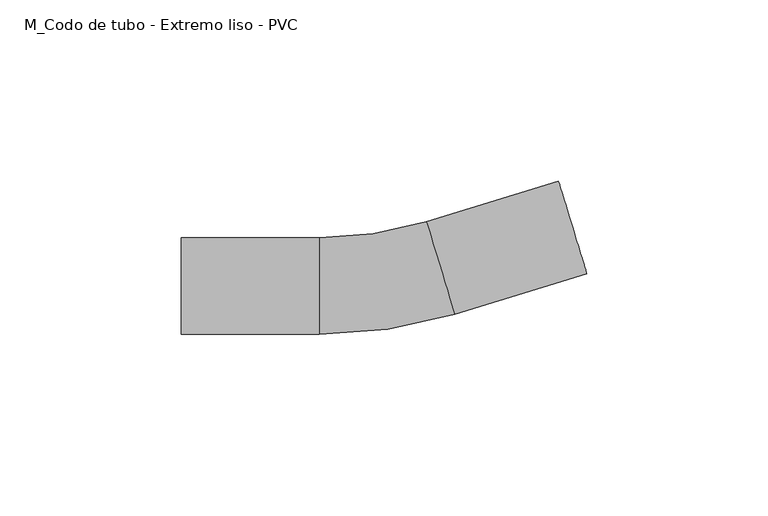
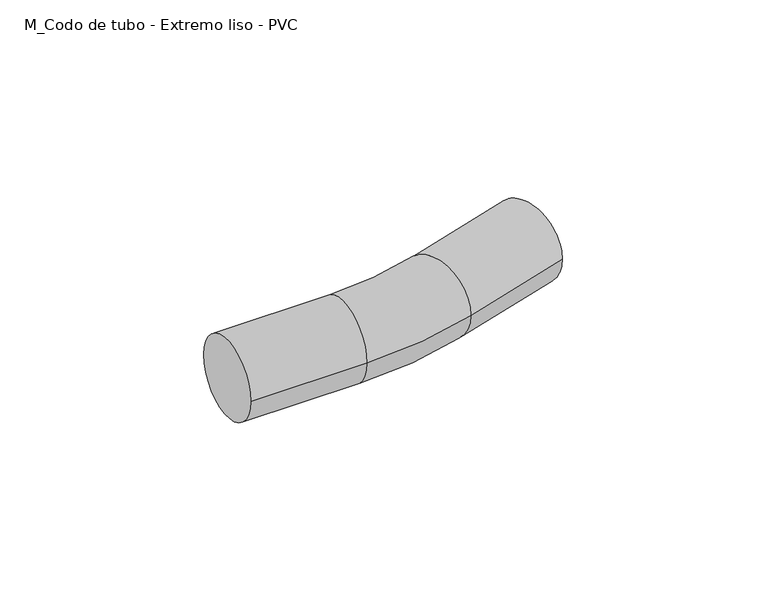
"""IFC4 building model written with IfcOpenShell, lengths in millimetres: cable carrier fitting geometry, M_Codo de tubo - Extremo liso - PVC : CODO ILUMINACION."""

from ifc_helpers import new_model, si_unit, point, frame, origin, place, context, project, spatial, circle_curve, ellipse_curve, trimmed, source, transform, mapped, element, save
from ifc_brep_helpers import plane_surface, cylinder_surface, revolved_surface, advanced_brep


def m_codo_de_tubo_extremo_liso_pvc_c827fe26(model_context):
    return source(origin(), model_context, "Body", "AdvancedBrep", [
        advanced_brep(
        [(-55.1822495, -13.335, 0.0), (-55.1822495, 13.335, 0.0), (-17.0822495, -13.335, 0.0), (-17.0822495, 13.335, 0.0), (12.4370597, 17.7466903, 0.0), (20.2346131, -7.7579575, 0.0), (56.6698243, 3.3814044, 0.0), (48.8722709, 28.8860523, 0.0)],
        [
            (0, 1, circle_curve(frame((-55.1822495, 0.0, 0.0), z_axis=(-1.0, 0.0, 0.0), x_axis=(0.0, 1.0, 0.0)), 13.335)),
            (1, 0, circle_curve(frame((-55.1822495, 0.0, 0.0), z_axis=(-1.0, 0.0, 0.0), x_axis=(0.0, 1.0, 0.0)), 13.335)),
            (0, 2),
            (2, 3, circle_curve(frame((-17.0822495, 0.0, 0.0), z_axis=(-1.0, 0.0, 0.0), x_axis=(0.0, 1.0, 0.0)), 13.335)),
            (3, 1),
            (3, 2, circle_curve(frame((-17.0822495, 0.0, 0.0), z_axis=(-1.0, 0.0, 0.0), x_axis=(0.0, 1.0, 0.0)), 13.335)),
            (4, 3, circle_curve(frame((-17.0822495, 114.3, 0.0), z_axis=(0.0, 0.0, -1.0), x_axis=(0.0, -1.0, 0.0)), 100.965)),
            (2, 5, circle_curve(frame((-17.0822495, 114.3, 0.0), z_axis=(0.0, 0.0, 1.0), x_axis=(0.0, -1.0, 0.0)), 127.635)),
            (5, 4, circle_curve(frame((16.3358364, 4.9943664, 0.0), z_axis=(-0.9563047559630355, -0.29237170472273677, 0.0), x_axis=(-0.29237170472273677, 0.9563047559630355, 0.0)), 13.335)),
            (4, 5, circle_curve(frame((16.3358364, 4.9943664, 0.0), z_axis=(-0.9563047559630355, -0.2923717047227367, 0.0), x_axis=(-0.2923717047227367, 0.9563047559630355, 0.0)), 13.335)),
            (6, 7, circle_curve(frame((52.7710476, 16.1337283, 0.0), z_axis=(0.9563047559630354, 0.292371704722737, 0.0), x_axis=(-0.292371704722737, 0.9563047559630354, 0.0)), 13.335)),
            (7, 6, circle_curve(frame((52.7710476, 16.1337283, 0.0), z_axis=(0.9563047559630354, 0.292371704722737, 0.0), x_axis=(-0.292371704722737, 0.9563047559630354, 0.0)), 13.335)),
            (5, 6),
            (7, 4),
        ],
        [
            plane_surface(frame((-55.1822495, 0.0, 0.0), z_axis=(-1.0, 0.0, 0.0), x_axis=(0.0, 0.0, 1.0))),
            cylinder_surface(frame((-55.1822495, 0.0, 0.0), z_axis=(-1.0, 0.0, 0.0), x_axis=(0.0, 1.0, 0.0)), 13.335),
            revolved_surface(trimmed(ellipse_curve(frame((-17.0822495, 0.0, 0.0), z_axis=(-1.0, 0.0, 0.0), x_axis=(0.0, 1.0, 0.0)), 13.335, 13.335), [point((-17.0822495, -13.335, 0.0))], [point((-17.0822495, 13.335, 0.0))], True, "CARTESIAN"), (-17.0822495, 114.3, 0.0), (0.0, 0.0, 1.0)),
            revolved_surface(trimmed(ellipse_curve(frame((-17.0822495, 0.0, 0.0), z_axis=(-1.0, 0.0, 0.0), x_axis=(0.0, 1.0, 0.0)), 13.335, 13.335), [point((-17.0822495, 13.335, 0.0))], [point((-17.0822495, -13.335, 0.0))], True, "CARTESIAN"), (-17.0822495, 114.3, 0.0), (0.0, 0.0, 1.0)),
            plane_surface(frame((52.7710476, 16.1337283, 0.0), z_axis=(0.9563047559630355, 0.292371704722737, 0.0), x_axis=(0.0, 0.0, 1.0))),
            cylinder_surface(frame((16.3358364, 4.9943664, 0.0), z_axis=(-0.9563047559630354, -0.292371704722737, 0.0), x_axis=(-0.292371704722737, 0.9563047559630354, 0.0)), 13.335),
        ],
        [
            (0, [[1, 2]]),
            (1, [[-1, 3, 4, 5]]),
            (1, [[-2, -5, 6, -3]]),
            (2, [[7, -4, 8, 9]]),
            (3, [[-8, -6, -7, 10]]),
            (4, [[11, 12]]),
            (5, [[-9, 13, -12, 14]]),
            (5, [[-10, -14, -11, -13]]),
        ],
    ),
    ])


if __name__ == "__main__":
    model = new_model("IFC4")
    model_context = context("Model", 3, world=origin())
    ifc_project = project(units=[si_unit("LENGTHUNIT", "METRE", prefix="MILLI")], contexts=[model_context])
    site = spatial("IfcSite", under=ifc_project)
    building = spatial("IfcBuilding", under=site)
    placement = place(None, origin())
    m_codo_de_tubo_extremo_liso_pvc_shape = m_codo_de_tubo_extremo_liso_pvc_c827fe26(model_context)
    element("IfcCableCarrierFitting", 1, ObjectType="M_Codo de tubo - Extremo liso - PVC : CODO ILUMINACION", at=placement, inside=building, context=model_context, shape_type="MappedRepresentation", body=[
        mapped(m_codo_de_tubo_extremo_liso_pvc_shape, transform((0.0, 0.0, 0.0), x_axis=(1.0, 0.0, 0.0), y_axis=(0.0, 1.0, 0.0), z_axis=(0.0, 0.0, 1.0))),
    ])
    save(model, "model.ifc")
